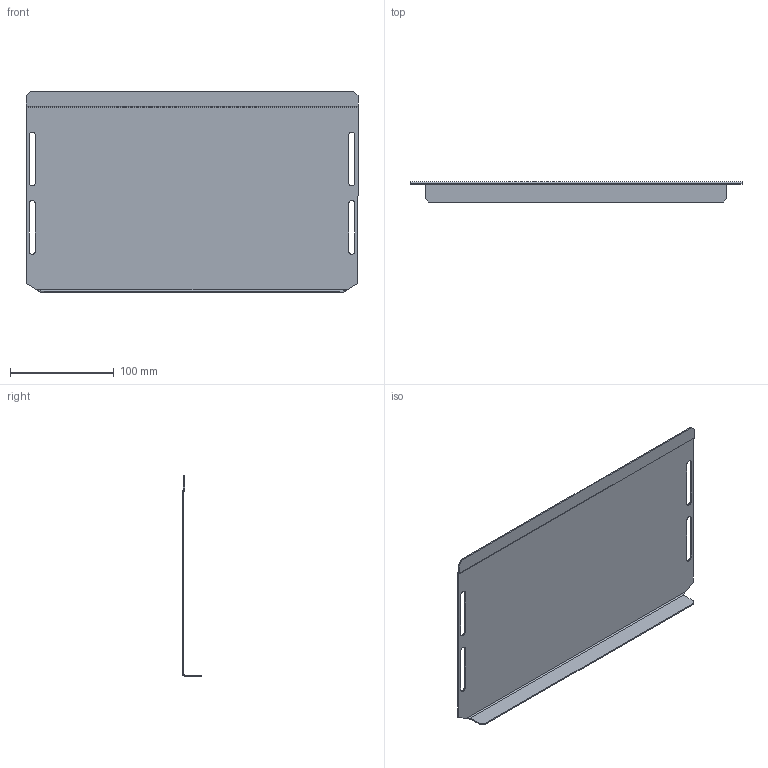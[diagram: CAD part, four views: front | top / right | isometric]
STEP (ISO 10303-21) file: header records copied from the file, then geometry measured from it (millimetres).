
FILE_DESCRIPTION (( 'STEP AP214' ), '1' );
FILE_NAME ('PKV 50 PH Ïàíåëü ïîäâèæíàÿ.STEP', '2021-05-24T10:03:07', ( '' ), ( '' ), 'SwSTEP 2.0', 'SolidWorks 2018', '' );
FILE_SCHEMA (( 'AUTOMOTIVE_DESIGN' ));
Length unit declared in the file: millimetre
Products named in the file (1): PKV 50 PH Ïàíåëü ïîäâèæíàÿ
Bounding box: 320.5 x 19 x 193.6 mm (x, y, z)
Volume: 79028 mm3; surface area: 133496.4 mm2
Topology: 1 solids, 1 shells, 52 faces, 130 edges, 80 vertices
Faces by surface type: plane 32, cylinder 18, bspline 2
Entity records: 1636 total; most frequent: CARTESIAN_POINT 345, ORIENTED_EDGE 260, DIRECTION 256, EDGE_CURVE 130, LINE 90, VECTOR 90, AXIS2_PLACEMENT_3D 83, VERTEX_POINT 80
